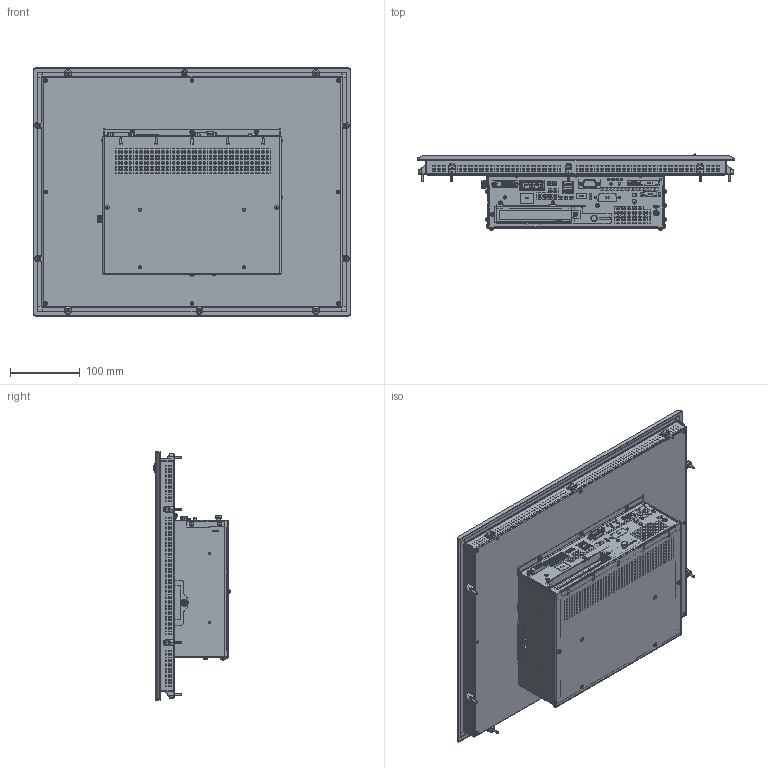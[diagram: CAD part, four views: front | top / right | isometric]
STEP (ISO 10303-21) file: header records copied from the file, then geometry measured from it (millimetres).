
FILE_DESCRIPTION((''),'2;1');
FILE_NAME('C6E22-Panel_170_RES_S1','2017-03-07T',('manpal'),(''),'PRO/ENGINEER BY PARAMETRIC TECHNOLOGY CORPORATION, 2013410','PRO/ENGINEER BY PARAMETRIC TECHNOLOGY CORPORATION, 2013410','');
FILE_SCHEMA(('AUTOMOTIVE_DESIGN { 1 0 10303 214 1 1 1 1 }'));
Products named in the file (2): C6E22-Panel_170_RES_S1_
Assembly tree (1 placements, depth 2):
  C6E22-Panel_170_RES_S1_
    C6E22-Panel_170_RES_S1_
Bounding box: 455 x 109.12 x 355 mm (x, y, z)
Surface area: 995605.8 mm2 (no closed solid volume)
Topology: 0 solids, 357 shells, 5531 faces, 23934 edges, 18555 vertices
Faces by surface type: plane 4257, cylinder 726, cone 284, bspline 174, torus 46, sphere 42, extrusion 2
Entity records: 275871 total; most frequent: CARTESIAN_POINT 65654, DIRECTION 36497, ORIENTED_EDGE 34425, EDGE_CURVE 23890, VECTOR 19413, LINE 19411, VERTEX_POINT 18555, AXIS2_PLACEMENT_3D 8542
